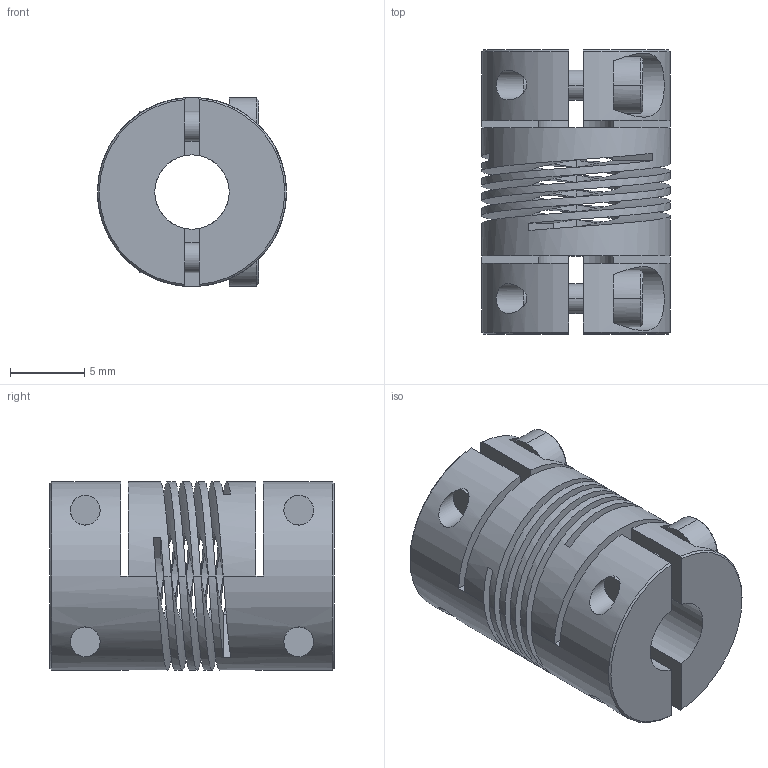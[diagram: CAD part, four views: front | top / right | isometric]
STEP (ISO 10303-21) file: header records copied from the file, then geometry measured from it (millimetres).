
FILE_DESCRIPTION((''),'2;1');
FILE_NAME('721_13','2006-12-05T',('Gary Melling'),(''),'PRO/ENGINEER BY PARAMETRIC TECHNOLOGY CORPORATION, 2006240','PRO/ENGINEER BY PARAMETRIC TECHNOLOGY CORPORATION, 2006240','');
FILE_SCHEMA(('CONFIG_CONTROL_DESIGN'));
Length unit declared in the file: millimetre
Products named in the file (1): 721_13
Bounding box: 12.7 x 19.1 x 12.7 mm (x, y, z)
Volume: 1596 mm3; surface area: 2616.1 mm2
Topology: 1 solids, 1 shells, 143 faces, 371 edges, 236 vertices
Faces by surface type: plane 76, cylinder 49, cone 12, bspline 6
Entity records: 5583 total; most frequent: CARTESIAN_POINT 2088, ORIENTED_EDGE 742, DIRECTION 673, EDGE_CURVE 371, VERTEX_POINT 236, AXIS2_PLACEMENT_3D 233, VECTOR 207, LINE 207
